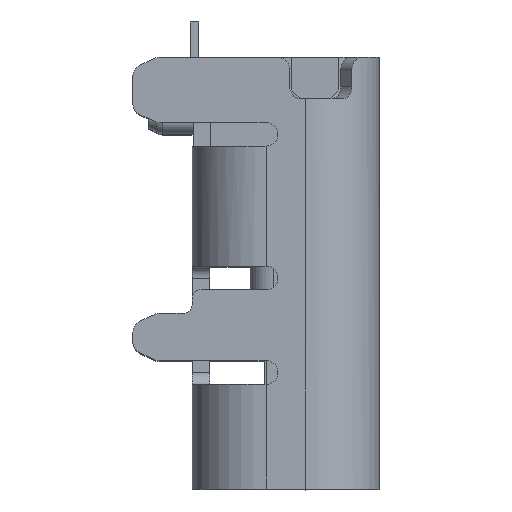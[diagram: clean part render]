
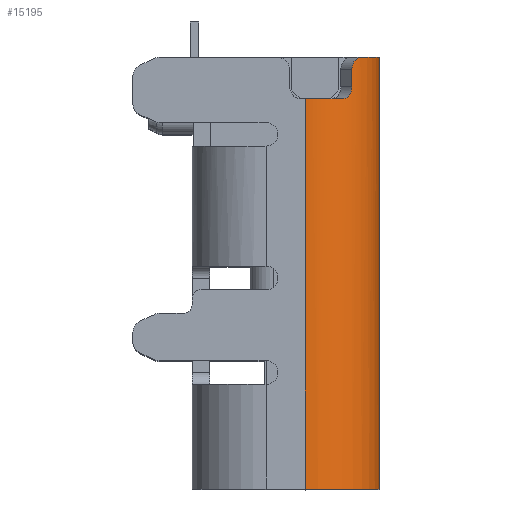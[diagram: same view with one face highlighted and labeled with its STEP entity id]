
A CAD part, top view. The second image highlights one B-rep face of the part: STEP entity #15195.
In plain terms, the highlighted cylindrical face has radius 1.25 mm (diameter 2.5 mm), a partial arc.
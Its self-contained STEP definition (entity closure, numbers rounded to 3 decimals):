
#3693=CARTESIAN_POINT('',(0.005,-4.8,
3.22));
#3694=DIRECTION('',(0.,-1.,0.));
#3695=DIRECTION('',(1.,0.,0.));
#3696=AXIS2_PLACEMENT_3D('',#3693,#3694,#3695);
#4056=CARTESIAN_POINT('',(0.005,1.8,3.22));
#4057=DIRECTION('',(0.,-1.,0.));
#4058=DIRECTION('',(0.336,0.,0.942));
#4059=AXIS2_PLACEMENT_3D('',#4056,#4057,#4058);
#4061=DIRECTION('',(0.,-1.,0.));
#4062=VECTOR('',#4061,0.3);
#4063=CARTESIAN_POINT('',(0.797,2.3,4.187));
#4064=LINE('',#4063,#4062);
#4065=DIRECTION('',(0.,1.,0.));
#4066=VECTOR('',#4065,7.3);
#4067=CARTESIAN_POINT('',(1.255,-4.8,3.22));
#4068=LINE('',#4067,#4066);
#4069=DIRECTION('',(0.,-1.,0.));
#4070=VECTOR('',#4069,6.6);
#4071=CARTESIAN_POINT('',(0.005,1.8,4.47));
#4072=LINE('',#4071,#4070);
#4077=CARTESIAN_POINT('',(0.005,1.8,3.22));
#4078=DIRECTION('',(0.,1.,0.));
#4079=DIRECTION('',(0.,0.,1.));
#4080=AXIS2_PLACEMENT_3D('',#4077,#4078,#4079);
#4099=CARTESIAN_POINT('',(0.005,1.8,3.22));
#4100=DIRECTION('',(0.,1.,0.));
#4101=DIRECTION('',(0.336,0.,0.942));
#4102=AXIS2_PLACEMENT_3D('',#4099,#4100,#4101);
#4967=CARTESIAN_POINT('',(0.005,2.5,3.22));
#4968=DIRECTION('',(0.,1.,0.));
#4969=DIRECTION('',(0.749,0.,0.662));
#4970=AXIS2_PLACEMENT_3D('',#4967,#4968,#4969);
#5003=CARTESIAN_POINT('',(0.797,2.3,4.187));
#5004=CARTESIAN_POINT('',(0.797,2.318,4.187));
#5005=CARTESIAN_POINT('',(0.801,2.353,4.184));
#5006=CARTESIAN_POINT('',(0.816,2.401,4.171));
#5007=CARTESIAN_POINT('',(0.84,2.443,4.15));
#5008=CARTESIAN_POINT('',(0.871,2.475,4.122));
#5009=CARTESIAN_POINT('',(0.906,2.495,4.087));
#5010=CARTESIAN_POINT('',(0.93,2.5,4.061));
#5011=CARTESIAN_POINT('',(0.942,2.5,4.048));
#5017=CARTESIAN_POINT('',(0.632,1.8,4.301));
#5018=CARTESIAN_POINT('',(0.647,1.8,4.292));
#5019=CARTESIAN_POINT('',(0.677,1.805,4.274));
#5020=CARTESIAN_POINT('',(0.718,1.825,4.247));
#5021=CARTESIAN_POINT('',(0.752,1.857,4.223));
#5022=CARTESIAN_POINT('',(0.777,1.898,4.203));
#5023=CARTESIAN_POINT('',(0.793,1.947,4.19));
#5024=CARTESIAN_POINT('',(0.797,1.982,4.187));
#5025=CARTESIAN_POINT('',(0.797,2.,4.187));
#8203=CARTESIAN_POINT('',(1.255,-4.8,3.22));
#8204=VERTEX_POINT('',#8203);
#8205=CARTESIAN_POINT('',(0.005,-4.8,
4.47));
#8206=VERTEX_POINT('',#8205);
#8267=CARTESIAN_POINT('',(1.255,2.5,3.22));
#8268=VERTEX_POINT('',#8267);
#8269=CARTESIAN_POINT('',(0.942,2.5,4.048));
#8270=VERTEX_POINT('',#8269);
#8271=VERTEX_POINT('',#5003);
#8272=CARTESIAN_POINT('',(0.797,2.,4.187));
#8273=VERTEX_POINT('',#8272);
#8274=VERTEX_POINT('',#5017);
#8275=CARTESIAN_POINT('',(0.005,1.8,4.47));
#8276=VERTEX_POINT('',#8275);
#9542=CARTESIAN_POINT('',(0.425,1.8,4.397));
#9543=CARTESIAN_POINT('',(0.198,1.8,4.455));
#9544=VERTEX_POINT('',#9542);
#9545=VERTEX_POINT('',#9543);
#15170=CARTESIAN_POINT('',(0.005,6056937.691,
3.22));
#15171=DIRECTION('',(0.,-1.,0.));
#15172=DIRECTION('',(0.,0.,-1.));
#15173=AXIS2_PLACEMENT_3D('',#15170,#15171,#15172);
#15174=CYLINDRICAL_SURFACE('',#15173,1.25);
#15175=ORIENTED_EDGE('',*,*,#15142,.F.);
#15177=ORIENTED_EDGE('',*,*,#15176,.T.);
#15179=ORIENTED_EDGE('',*,*,#15178,.T.);
#15181=ORIENTED_EDGE('',*,*,#15180,.F.);
#15183=ORIENTED_EDGE('',*,*,#15182,.T.);
#15185=ORIENTED_EDGE('',*,*,#15184,.T.);
#15187=ORIENTED_EDGE('',*,*,#15186,.F.);
#15188=ORIENTED_EDGE('',*,*,#14696,.T.);
#15190=ORIENTED_EDGE('',*,*,#15189,.F.);
#15192=ORIENTED_EDGE('',*,*,#15191,.T.);
#15193=EDGE_LOOP('',(#15175,#15177,#15179,#15181,#15183,#15185,#15187,#15188,
#15190,#15192));
#15194=FACE_OUTER_BOUND('',#15193,.F.);
#3697=CIRCLE('',#3696,1.25);
#4060=CIRCLE('',#4059,1.25);
#4081=CIRCLE('',#4080,1.25);
#4103=CIRCLE('',#4102,1.25);
#4971=CIRCLE('',#4970,1.25);
#5012=B_SPLINE_CURVE_WITH_KNOTS('',3,(#5003,#5004,#5005,#5006,#5007,#5008,#5009,
#5010,#5011),.UNSPECIFIED.,.F.,.F.,(4,1,1,1,1,1,4),(0.,0.167,
0.333,0.5,0.667,0.833,1.),
.UNSPECIFIED.);
#5026=B_SPLINE_CURVE_WITH_KNOTS('',3,(#5017,#5018,#5019,#5020,#5021,#5022,#5023,
#5024,#5025),.UNSPECIFIED.,.F.,.F.,(4,1,1,1,1,1,4),(0.,0.167,
0.333,0.5,0.667,0.833,1.),
.UNSPECIFIED.);
#14696=EDGE_CURVE('',#8204,#8206,#3697,.T.);
#15142=EDGE_CURVE('',#9544,#9545,#4060,.T.);
#15176=EDGE_CURVE('',#9544,#8274,#4103,.T.);
#15178=EDGE_CURVE('',#8274,#8273,#5026,.T.);
#15180=EDGE_CURVE('',#8271,#8273,#4064,.T.);
#15182=EDGE_CURVE('',#8271,#8270,#5012,.T.);
#15184=EDGE_CURVE('',#8270,#8268,#4971,.T.);
#15186=EDGE_CURVE('',#8204,#8268,#4068,.T.);
#15189=EDGE_CURVE('',#8276,#8206,#4072,.T.);
#15191=EDGE_CURVE('',#8276,#9545,#4081,.T.);
#15195=ADVANCED_FACE('',(#15194),#15174,.T.);
